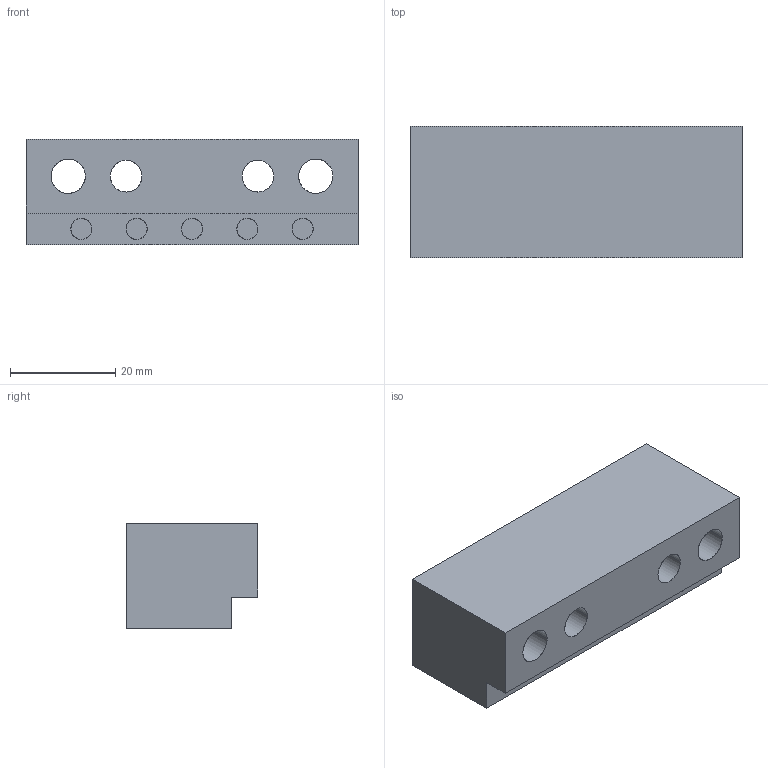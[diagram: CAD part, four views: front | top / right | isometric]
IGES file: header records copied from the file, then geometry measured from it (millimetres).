
Start section: START RECORD GO HERE.
Global section: file name: G40625063.igs; native system: DASSAULT SYSTEMES CATIA V5 R20 - www.3ds.com; preprocessor: CATIA Version 5 Release 20 ; author: r.borello; organization: CFTORINO; date: 20190624.150837; units: millimetre
Bounding box: 63 x 25 x 20 mm (x, y, z)
Surface area: 10449.5 mm2 (no closed solid volume)
Topology: 0 solids, 0 shells, 216 faces, 910 edges, 816 vertices
Faces by surface type: revolution 184, plane 32
